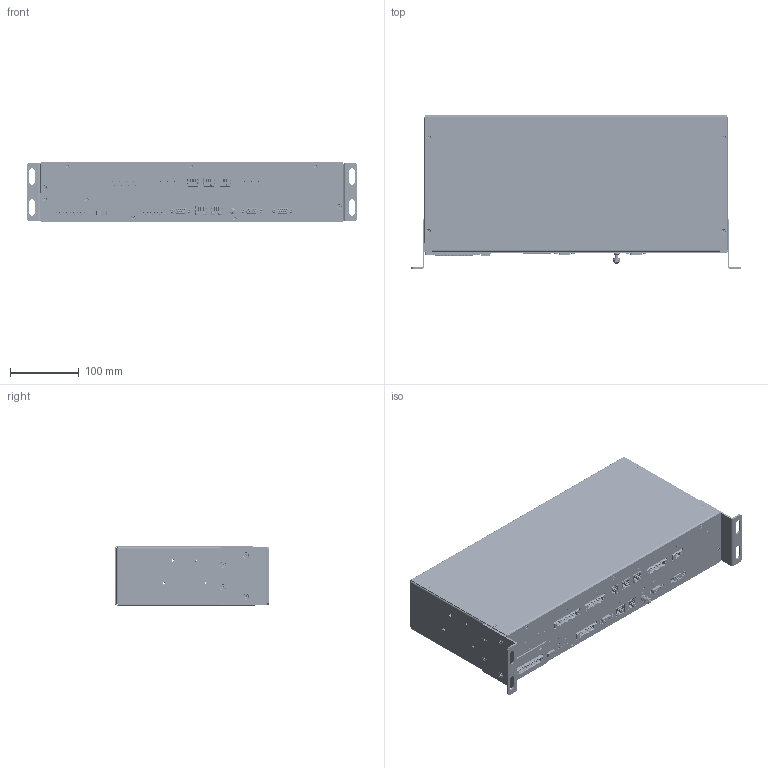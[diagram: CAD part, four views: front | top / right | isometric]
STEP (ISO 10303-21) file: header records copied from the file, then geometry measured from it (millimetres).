
FILE_DESCRIPTION(/* description */ (''),/* implementation_level */ '2;1');
FILE_NAME(/* name */ 'C:\Users\Orhan.Eker\Desktop\Sync_module.stp',/* time_stamp */ '2019-04-15T09:01:17+02:00',/* author */ ('orhan.eker'),/* organization */ ('Schaffner EMV AG'),/* preprocessor_version */ 'ST-DEVELOPER v16.5',/* originating_system */ 'Autodesk Inventor 2017',/* authorisation */ '');
FILE_SCHEMA (('AUTOMOTIVE_DESIGN { 1 0 10303 214 3 1 1 }'));
Products named in the file (38): 817650; 178281_IAM_000; 251165; 178290_IPT_000; 202005; 207800; 251162; 249049; 178461_IPT_000; 178412_IAM_000; 249050; 251153; 250273; 1010927_IAM_000; 178998_IPT_000; 1008639_IAM_000; 250272; 250274; 250274_1; 201858; 200443; 201857; 1008614_IAM_000; 250271; 204831; 240652; 1003847_IPT_000; 1003340_IPT_000; 419331; 203798; 236566; 201193; 417037; 178407_IPT_000; 178413_IPT_000; 238699; 231800; 202154
Assembly tree (133 placements, depth 4):
  817650
    178281_IAM_000
      251165
      203798  x13
      178290_IPT_000  x10
      202005  x16
      207800  x2
    251162
      249049
      178461_IPT_000
    178412_IAM_000
      249050
      203798  x3
    251153  x2
    250273
    1010927_IAM_000
      178998_IPT_000
      1008639_IAM_000
        250272
        203798  x2
      250274
        250274_1
        204831  x2
      178407_IPT_000  x2
      201858  x2
      200443  x2
      201857  x2
    1008614_IAM_000
      250271
      203798
      204831  x2
    240652
      1003847_IPT_000
      1003340_IPT_000  x5
    419331
    203798  x2
    236566  x4
    201193
    178413_IPT_000  x19
    417037
    178407_IPT_000  x10
    238699  x8
    231800  x2
    202154
Bounding box: 480 x 222.5 x 87 mm (x, y, z)
Volume: 723012 mm3; surface area: 972885.6 mm2
Topology: 1022 solids, 1022 shells, 23143 faces, 57313 edges, 36501 vertices
Faces by surface type: plane 17610, cylinder 3792, bspline 866, cone 682, sphere 101, torus 92
Full cylindrical faces by diameter (mm): 0.434 x5, 0.527 x3, 0.8 x272, 0.9 x120, 1 x111, 1.1 x34, 1.2 x36, 1.3 x12, 1.4 x62, 1.5 x6, 1.63 x10, 1.8 x58, 2.2 x4, 2.4 x28, 2.459 x23, 2.5 x12, 2.675 x12, 2.8 x42, 3 x71, 3.121 x16, 3.2 x10, 3.242 x16, 3.25 x10, 3.3 x2, 3.4 x16, 3.5 x61, 4 x42, 4.095 x6, 4.1 x10, 4.134 x1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
Entity records: 644590 total; most frequent: CARTESIAN_POINT 137420, ORIENTED_EDGE 103032, DIRECTION 96916, EDGE_CURVE 51510, LINE 43046, VECTOR 43046, VERTEX_POINT 33600, AXIS2_PLACEMENT_3D 26935
